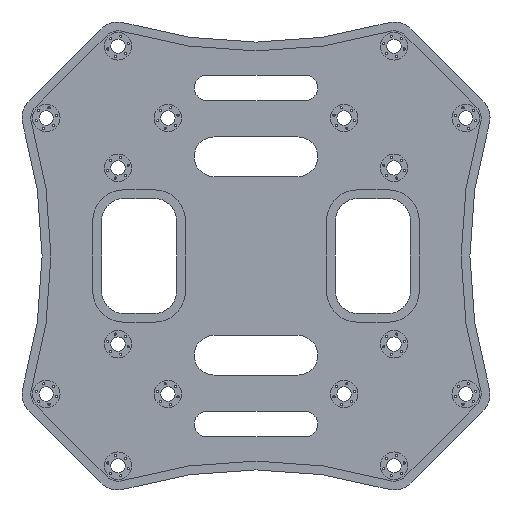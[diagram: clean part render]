
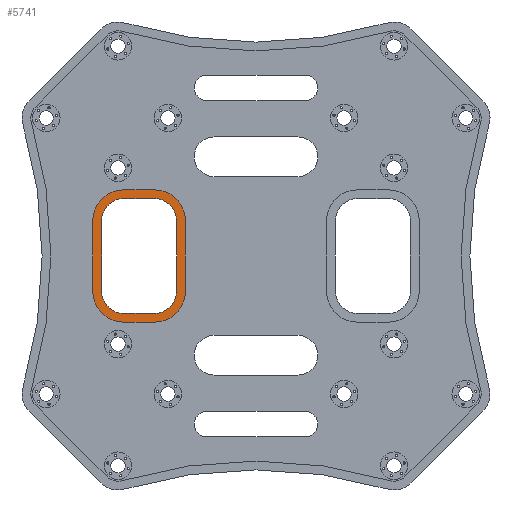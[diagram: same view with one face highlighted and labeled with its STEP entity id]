
A CAD part, front view. The second image highlights one B-rep face of the part: STEP entity #5741.
In plain terms, the highlighted planar face has unit normal (0, -1, 0).
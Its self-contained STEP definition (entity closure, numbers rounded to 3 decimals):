
#201=FACE_BOUND('',#1219,.T.);
#349=PLANE('',#6471);
#735=FACE_OUTER_BOUND('',#1218,.T.);
#1218=EDGE_LOOP('',(#5025,#5026,#5027,#5028,#5029,#5030,#5031,#5032));
#1219=EDGE_LOOP('',(#5033,#5034,#5035,#5036,#5037,#5038,#5039,#5040));
#1596=LINE('',#9590,#1940);
#1600=LINE('',#9602,#1944);
#1604=LINE('',#9614,#1948);
#1607=LINE('',#9623,#1951);
#1650=LINE('',#9767,#1994);
#1653=LINE('',#9775,#1997);
#1656=LINE('',#9783,#2000);
#1658=LINE('',#9789,#2002);
#1940=VECTOR('',#7933,1000.);
#1944=VECTOR('',#7945,1000.);
#1948=VECTOR('',#7957,1000.);
#1951=VECTOR('',#7968,1000.);
#1994=VECTOR('',#8155,1000.);
#1997=VECTOR('',#8164,1000.);
#2000=VECTOR('',#8173,1000.);
#2002=VECTOR('',#8181,1000.);
#2411=CIRCLE('',#6375,5.);
#2413=CIRCLE('',#6379,5.);
#2415=CIRCLE('',#6383,5.);
#2417=CIRCLE('',#6387,5.);
#2436=CIRCLE('',#6460,7.);
#2437=CIRCLE('',#6463,7.);
#2438=CIRCLE('',#6466,7.);
#2439=CIRCLE('',#6469,7.);
#2898=VERTEX_POINT('',#9579);
#2899=VERTEX_POINT('',#9581);
#2902=VERTEX_POINT('',#9588);
#2904=VERTEX_POINT('',#9594);
#2906=VERTEX_POINT('',#9600);
#2908=VERTEX_POINT('',#9606);
#2910=VERTEX_POINT('',#9612);
#2912=VERTEX_POINT('',#9618);
#2939=VERTEX_POINT('',#9759);
#2940=VERTEX_POINT('',#9761);
#2941=VERTEX_POINT('',#9765);
#2942=VERTEX_POINT('',#9769);
#2943=VERTEX_POINT('',#9773);
#2944=VERTEX_POINT('',#9777);
#2945=VERTEX_POINT('',#9781);
#2946=VERTEX_POINT('',#9785);
#3600=EDGE_CURVE('',#2899,#2898,#2411,.T.);
#3604=EDGE_CURVE('',#2898,#2902,#1596,.T.);
#3607=EDGE_CURVE('',#2902,#2904,#2413,.T.);
#3610=EDGE_CURVE('',#2904,#2906,#1600,.T.);
#3613=EDGE_CURVE('',#2906,#2908,#2415,.T.);
#3616=EDGE_CURVE('',#2908,#2910,#1604,.T.);
#3619=EDGE_CURVE('',#2910,#2912,#2417,.T.);
#3621=EDGE_CURVE('',#2912,#2899,#1607,.T.);
#3679=EDGE_CURVE('',#2939,#2940,#2436,.T.);
#3682=EDGE_CURVE('',#2941,#2939,#1650,.T.);
#3684=EDGE_CURVE('',#2942,#2941,#2437,.T.);
#3686=EDGE_CURVE('',#2943,#2942,#1653,.T.);
#3688=EDGE_CURVE('',#2944,#2943,#2438,.T.);
#3690=EDGE_CURVE('',#2945,#2944,#1656,.T.);
#3692=EDGE_CURVE('',#2946,#2945,#2439,.T.);
#3693=EDGE_CURVE('',#2940,#2946,#1658,.T.);
#5025=ORIENTED_EDGE('',*,*,#3679,.F.);
#5026=ORIENTED_EDGE('',*,*,#3682,.F.);
#5027=ORIENTED_EDGE('',*,*,#3684,.F.);
#5028=ORIENTED_EDGE('',*,*,#3686,.F.);
#5029=ORIENTED_EDGE('',*,*,#3688,.F.);
#5030=ORIENTED_EDGE('',*,*,#3690,.F.);
#5031=ORIENTED_EDGE('',*,*,#3692,.F.);
#5032=ORIENTED_EDGE('',*,*,#3693,.F.);
#5033=ORIENTED_EDGE('',*,*,#3600,.T.);
#5034=ORIENTED_EDGE('',*,*,#3604,.T.);
#5035=ORIENTED_EDGE('',*,*,#3607,.T.);
#5036=ORIENTED_EDGE('',*,*,#3610,.T.);
#5037=ORIENTED_EDGE('',*,*,#3613,.T.);
#5038=ORIENTED_EDGE('',*,*,#3616,.T.);
#5039=ORIENTED_EDGE('',*,*,#3619,.T.);
#5040=ORIENTED_EDGE('',*,*,#3621,.T.);
#5741=ADVANCED_FACE('',(#735,#201),#349,.T.);
#6375=AXIS2_PLACEMENT_3D('',#9582,#7925,#7926);
#6379=AXIS2_PLACEMENT_3D('',#9596,#7938,#7939);
#6383=AXIS2_PLACEMENT_3D('',#9608,#7950,#7951);
#6387=AXIS2_PLACEMENT_3D('',#9620,#7962,#7963);
#6460=AXIS2_PLACEMENT_3D('',#9762,#8149,#8150);
#6463=AXIS2_PLACEMENT_3D('',#9771,#8159,#8160);
#6466=AXIS2_PLACEMENT_3D('',#9779,#8168,#8169);
#6469=AXIS2_PLACEMENT_3D('',#9787,#8177,#8178);
#6471=AXIS2_PLACEMENT_3D('',#9790,#8182,#8183);
#7925=DIRECTION('center_axis',(0.,1.,0.));
#7926=DIRECTION('ref_axis',(0.,0.,1.));
#7933=DIRECTION('',(0.,0.,1.));
#7938=DIRECTION('center_axis',(0.,1.,0.));
#7939=DIRECTION('ref_axis',(0.,0.,1.));
#7945=DIRECTION('',(1.,0.,0.));
#7950=DIRECTION('center_axis',(0.,1.,0.));
#7951=DIRECTION('ref_axis',(0.,0.,1.));
#7957=DIRECTION('',(0.,0.,-1.));
#7962=DIRECTION('center_axis',(0.,1.,0.));
#7963=DIRECTION('ref_axis',(0.,0.,1.));
#7968=DIRECTION('',(-1.,0.,0.));
#8149=DIRECTION('center_axis',(0.,1.,0.));
#8150=DIRECTION('ref_axis',(0.,0.,1.));
#8155=DIRECTION('',(-1.,0.,0.));
#8159=DIRECTION('center_axis',(0.,1.,0.));
#8160=DIRECTION('ref_axis',(0.,0.,1.));
#8164=DIRECTION('',(0.,0.,-1.));
#8168=DIRECTION('center_axis',(0.,1.,0.));
#8169=DIRECTION('ref_axis',(0.,0.,1.));
#8173=DIRECTION('',(1.,0.,0.));
#8177=DIRECTION('center_axis',(0.,1.,0.));
#8178=DIRECTION('ref_axis',(0.,0.,1.));
#8181=DIRECTION('',(0.,0.,1.));
#8182=DIRECTION('center_axis',(0.,-1.,0.));
#8183=DIRECTION('ref_axis',(0.,0.,1.));
#9579=CARTESIAN_POINT('',(-35.,-0.76,-8.));
#9581=CARTESIAN_POINT('',(-30.,-0.76,-13.));
#9582=CARTESIAN_POINT('Origin',(-30.,-0.76,-8.));
#9588=CARTESIAN_POINT('',(-35.,-0.76,8.));
#9590=CARTESIAN_POINT('',(-35.,-0.76,-8.));
#9594=CARTESIAN_POINT('',(-30.,-0.76,13.));
#9596=CARTESIAN_POINT('Origin',(-30.,-0.76,8.));
#9600=CARTESIAN_POINT('',(-23.,-0.76,13.));
#9602=CARTESIAN_POINT('',(-30.,-0.76,13.));
#9606=CARTESIAN_POINT('',(-18.,-0.76,8.));
#9608=CARTESIAN_POINT('Origin',(-23.,-0.76,8.));
#9612=CARTESIAN_POINT('',(-18.,-0.76,-8.));
#9614=CARTESIAN_POINT('',(-18.,-0.76,8.));
#9618=CARTESIAN_POINT('',(-23.,-0.76,-13.));
#9620=CARTESIAN_POINT('Origin',(-23.,-0.76,-8.));
#9623=CARTESIAN_POINT('',(-23.,-0.76,-13.));
#9759=CARTESIAN_POINT('',(-30.,-0.76,-15.));
#9761=CARTESIAN_POINT('',(-37.,-0.76,-8.));
#9762=CARTESIAN_POINT('Origin',(-30.,-0.76,-8.));
#9765=CARTESIAN_POINT('',(-23.,-0.76,-15.));
#9767=CARTESIAN_POINT('',(-23.,-0.76,-15.));
#9769=CARTESIAN_POINT('',(-16.,-0.76,-8.));
#9771=CARTESIAN_POINT('Origin',(-23.,-0.76,-8.));
#9773=CARTESIAN_POINT('',(-16.,-0.76,8.));
#9775=CARTESIAN_POINT('',(-16.,-0.76,8.));
#9777=CARTESIAN_POINT('',(-23.,-0.76,15.));
#9779=CARTESIAN_POINT('Origin',(-23.,-0.76,8.));
#9781=CARTESIAN_POINT('',(-30.,-0.76,15.));
#9783=CARTESIAN_POINT('',(-30.,-0.76,15.));
#9785=CARTESIAN_POINT('',(-37.,-0.76,8.));
#9787=CARTESIAN_POINT('Origin',(-30.,-0.76,8.));
#9789=CARTESIAN_POINT('',(-37.,-0.76,-8.));
#9790=CARTESIAN_POINT('Origin',(-30.,-0.76,-8.));
